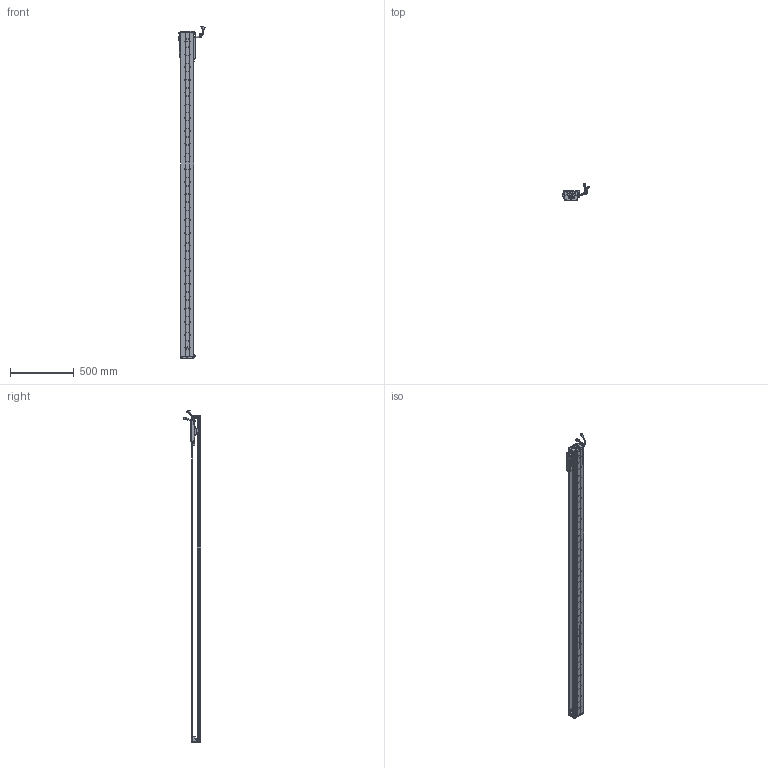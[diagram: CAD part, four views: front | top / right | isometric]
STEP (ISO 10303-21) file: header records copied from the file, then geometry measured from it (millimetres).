
FILE_DESCRIPTION (( 'STEP AP203' ), '1' );
FILE_NAME ('Z2-RY100D-1-L500-B-K.SLDASM_2300.step', '2021-05-17T02:37:39', ( '盈信电脑' ), ( '东莞市道滘镇水果街19号' ), 'SwSTEP 2.0', 'SolidWorks 2016', '' );
FILE_SCHEMA (( 'CONFIG_CONTROL_DESIGN' ));
Length unit declared in the file: millimetre
Products named in the file (36): 140雄赽晤鎢ん堤盄; LABEL-Part-1; Z-RY100D詩湍狟揤裔; Z2-RY100D-500-倰第菁釱_2300; Z2-RY100D-1-L500-B-K.SLDASM_2300; 080黍杅芛假蚾釱21遴; Z-RY100D覜茼んえ; PBU_SHEET; SEAL; SCREW-M1.6-3; HARNESS-Part-1; 140蚥薯蝶輸; SCREW-M1.6-2; LABEL; SHIELDPLATE; SCALE-Part-1; SCREW-M1.6-1; COVER-Part-1; HARNESS; SCREW-M1.7-1; HOLDER0; Z-100詩湍傷裔啣; PSLH080_PSLF2; Z2-RY100铝滑块（21款）; SCREW-M1.7; 100-Z-臏賑輸盄裔(21遴); SCALE-Part-2; 榋妏寠巭燃_暯_M2_2; Z-RY100D詩湍奻揤裔; SCALE; Z2-RY100-L500詩湍90mm遵_2300; SCREW-M1.6; SEAL-Part-1; COVER; HARNESS-Part-2; 覜茼ん672
Assembly tree (43 placements, depth 4):
  Z2-RY100D-1-L500-B-K.SLDASM_2300
    Z2-RY100D-500-倰第菁釱_2300
    Z2-RY100铝滑块（21款）
    PSLH080_PSLF2
      SCALE
        SCALE-Part-1
        SCALE-Part-2
      HARNESS
        HARNESS-Part-1
        HARNESS-Part-2
      LABEL
        LABEL-Part-1
      COVER
        COVER-Part-1
      SEAL
        SEAL-Part-1
      榋妏寠巭燃_暯_M2_2
      SHIELDPLATE
      SCREW-M1.7
      SCREW-M1.7-1
      PBU_SHEET
      SCREW-M1.6
      SCREW-M1.6-1
      SCREW-M1.6-2
      SCREW-M1.6-3
      HOLDER0
    080黍杅芛假蚾釱21遴
    Z-100詩湍傷裔啣  x2
    140蚥薯蝶輸  x2
    覜茼ん672  x3
    Z-RY100D覜茼んえ  x3
    100-Z-臏賑輸盄裔(21遴)
    140雄赽晤鎢ん堤盄
    Z2-RY100-L500詩湍90mm遵_2300
    Z-RY100D詩湍狟揤裔  x2
    Z-RY100D詩湍奻揤裔  x2
Bounding box: 205.84 x 136.11 x 2605.43 mm (x, y, z)
Volume: 4690575.9 mm3; surface area: 1860956.2 mm2
Topology: 38 solids, 38 shells, 2960 faces, 8073 edges, 5156 vertices
Faces by surface type: cylinder 1442, plane 1178, cone 218, torus 69, bspline 53
Entity records: 85493 total; most frequent: CARTESIAN_POINT 17944, DIRECTION 13753, ORIENTED_EDGE 13042, EDGE_CURVE 6521, AXIS2_PLACEMENT_3D 5161, VERTEX_POINT 4224, VECTOR 3431, LINE 3431
